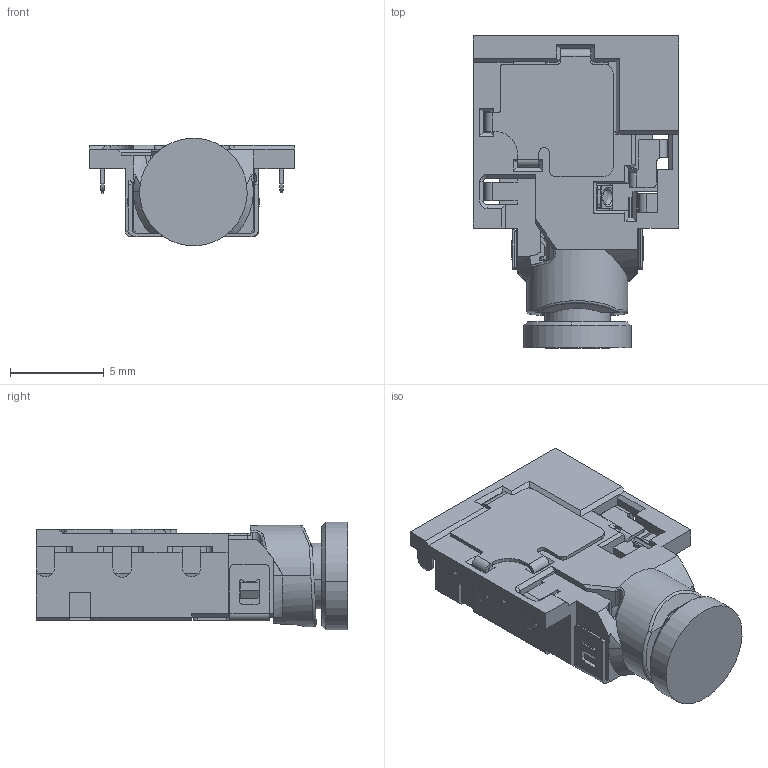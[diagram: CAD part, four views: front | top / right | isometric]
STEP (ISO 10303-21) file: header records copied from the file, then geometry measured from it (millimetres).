
FILE_DESCRIPTION((''),'2;1');
FILE_NAME('J3C-23_20230314_ASM','2023-03-14T',('A'),(''),'PRO/ENGINEER BY PARAMETRIC TECHNOLOGY CORPORATION, 2011310','PRO/ENGINEER BY PARAMETRIC TECHNOLOGY CORPORATION, 2011310','');
FILE_SCHEMA(('CONFIG_CONTROL_DESIGN'));
Length unit declared in the file: millimetre
Products named in the file (4): J3C-23____; 3_5MM_PLUG; J3C-23__________20230314_ASM; J3C-23_20230314_ASM
Assembly tree (3 placements, depth 3):
  J3C-23_20230314_ASM
    J3C-23__________20230314_ASM
      J3C-23____
      3_5MM_PLUG
Bounding box: 10.95 x 16.65 x 5.73 mm (x, y, z)
Volume: 511.6 mm3; surface area: 1119.1 mm2
Topology: 2 solids, 4 shells, 784 faces, 2358 edges, 1568 vertices
Faces by surface type: plane 520, cylinder 206, cone 24, bspline 22, sphere 6, torus 6
Entity records: 28190 total; most frequent: CARTESIAN_POINT 6977, ORIENTED_EDGE 4576, DIRECTION 4133, EDGE_CURVE 2288, VECTOR 1677, LINE 1677, VERTEX_POINT 1496, AXIS2_PLACEMENT_3D 1228
